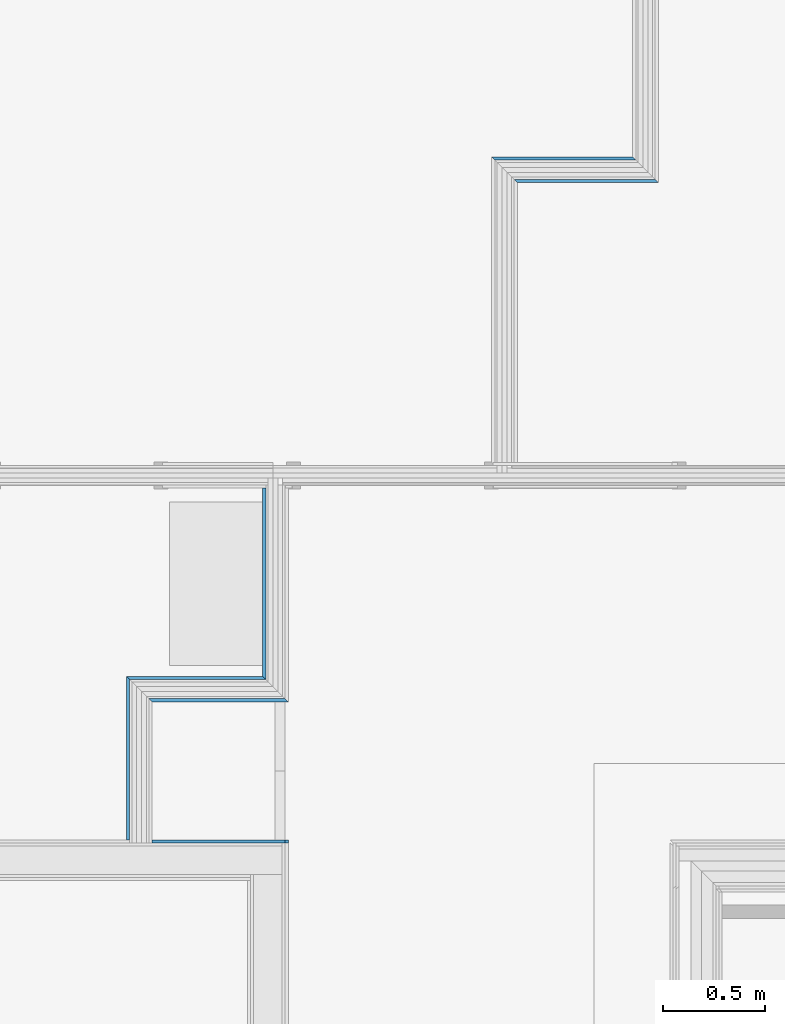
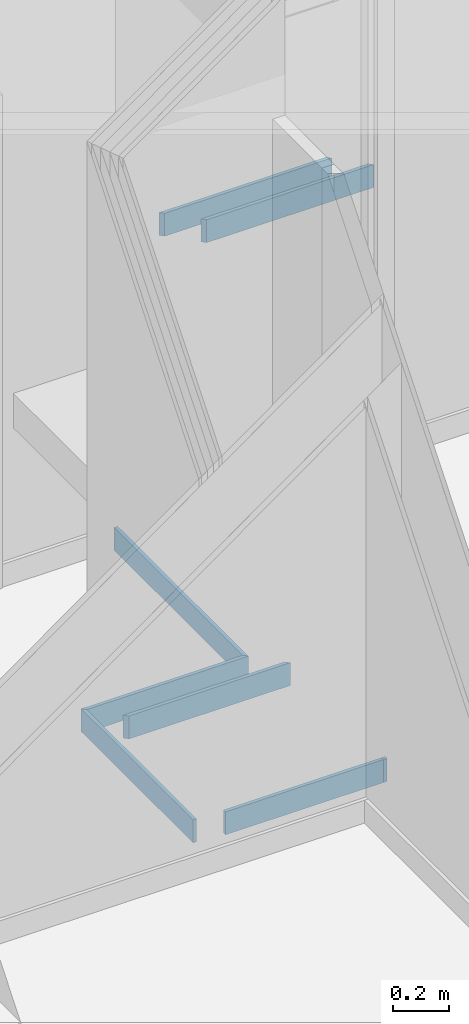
# One storey, part 38 of 64: 8 building element parts, 5 elements without a shape of their own.
"""IFC2X3 building model written with IfcOpenShell, lengths in metres."""

from ifc_helpers import new_model, entity, si_unit, converted_unit, derived_unit, money_unit, direction, frame, frame_2d, origin_with_axes, place, context, subcontext, project, spatial, polyline, rectangle, outline, extrude, material, type_object, element, aggregate, save


model = new_model("IFC2X3")

# Units and contexts
model_context = context("Model", 3, precision=1e-05, world=origin_with_axes(), true_north=direction((0.0, 1.0)))
body_context = subcontext(model_context, "Body", "Model", "MODEL_VIEW", scale=1.0)
ifc_project = project(units=[si_unit("LENGTHUNIT", "METRE"), si_unit("AREAUNIT", "SQUARE_METRE"), si_unit("VOLUMEUNIT", "CUBIC_METRE"), si_unit("ABSORBEDDOSEUNIT", "GRAY"), si_unit("AMOUNTOFSUBSTANCEUNIT", "MOLE"), si_unit("DOSEEQUIVALENTUNIT", "SIEVERT"), si_unit("ELECTRICCAPACITANCEUNIT", "FARAD"), si_unit("ELECTRICCHARGEUNIT", "COULOMB"), si_unit("ELECTRICCONDUCTANCEUNIT", "SIEMENS"), si_unit("ELECTRICCURRENTUNIT", "AMPERE"), si_unit("ELECTRICRESISTANCEUNIT", "OHM"), si_unit("ELECTRICVOLTAGEUNIT", "VOLT"), si_unit("ENERGYUNIT", "JOULE"), si_unit("FORCEUNIT", "NEWTON"), si_unit("FREQUENCYUNIT", "HERTZ"), si_unit("ILLUMINANCEUNIT", "LUX"), si_unit("INDUCTANCEUNIT", "HENRY"), si_unit("LUMINOUSFLUXUNIT", "LUMEN"), si_unit("LUMINOUSINTENSITYUNIT", "CANDELA"), si_unit("MAGNETICFLUXDENSITYUNIT", "TESLA"), si_unit("MAGNETICFLUXUNIT", "WEBER"), si_unit("MASSUNIT", "GRAM"), converted_unit("PLANEANGLEUNIT", "degree", entity("IfcReal", 0.0174532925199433), si_unit("PLANEANGLEUNIT", "RADIAN"), dimensions=[0, 0, 0, 0, 0, 0, 0]), si_unit("POWERUNIT", "WATT"), si_unit("PRESSUREUNIT", "PASCAL"), si_unit("RADIOACTIVITYUNIT", "BECQUEREL"), si_unit("SOLIDANGLEUNIT", "STERADIAN"), si_unit("THERMODYNAMICTEMPERATUREUNIT", "KELVIN"), si_unit("TIMEUNIT", "SECOND"), derived_unit("ACCELERATIONUNIT", [(si_unit("LENGTHUNIT", "METRE"), 1), (si_unit("TIMEUNIT", "SECOND"), -2)]), derived_unit("ANGULARVELOCITYUNIT", [(converted_unit("PLANEANGLEUNIT", "degree", entity("IfcReal", 0.0174532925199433), si_unit("PLANEANGLEUNIT", "RADIAN"), dimensions=[0, 0, 0, 0, 0, 0, 0]), 1), (si_unit("TIMEUNIT", "SECOND"), -1)]), derived_unit("CURVATUREUNIT", [(converted_unit("PLANEANGLEUNIT", "degree", entity("IfcReal", 0.0174532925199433), si_unit("PLANEANGLEUNIT", "RADIAN"), dimensions=[0, 0, 0, 0, 0, 0, 0]), 1), (si_unit("LENGTHUNIT", "METRE"), -1)]), derived_unit("DYNAMICVISCOSITYUNIT", [(si_unit("PRESSUREUNIT", "PASCAL"), 1), (si_unit("TIMEUNIT", "SECOND"), 1)]), derived_unit("HEATFLUXDENSITYUNIT", [(si_unit("POWERUNIT", "WATT"), 1), (si_unit("LENGTHUNIT", "METRE"), -2)]), derived_unit("HEATINGVALUEUNIT", [(si_unit("ENERGYUNIT", "JOULE"), 1), (si_unit("MASSUNIT", "GRAM"), -1)]), derived_unit("INTEGERCOUNTRATEUNIT", [(si_unit("TIMEUNIT", "SECOND"), -1)]), derived_unit("IONCONCENTRATIONUNIT", [(si_unit("MASSUNIT", "GRAM"), 1), (si_unit("VOLUMEUNIT", "CUBIC_METRE"), -1)]), derived_unit("ISOTHERMALMOISTURECAPACITYUNIT", [(si_unit("VOLUMEUNIT", "CUBIC_METRE"), 1), (si_unit("MASSUNIT", "GRAM"), -1)]), derived_unit("KINEMATICVISCOSITYUNIT", [(si_unit("AREAUNIT", "SQUARE_METRE"), 1), (si_unit("TIMEUNIT", "SECOND"), -1)]), derived_unit("LINEARFORCEUNIT", [(si_unit("FORCEUNIT", "NEWTON"), 1), (si_unit("LENGTHUNIT", "METRE"), -1)]), derived_unit("LINEARMOMENTUNIT", [(si_unit("FORCEUNIT", "NEWTON"), 1), (si_unit("LENGTHUNIT", "METRE"), -1)]), derived_unit("LINEARSTIFFNESSUNIT", [(si_unit("FORCEUNIT", "NEWTON"), 1), (si_unit("LENGTHUNIT", "METRE"), -1)]), derived_unit("LINEARVELOCITYUNIT", [(si_unit("LENGTHUNIT", "METRE"), 1), (si_unit("TIMEUNIT", "SECOND"), -1)]), derived_unit("LUMINOUSINTENSITYDISTRIBUTIONUNIT", [(si_unit("LUMINOUSINTENSITYUNIT", "CANDELA"), 1), (si_unit("LUMINOUSFLUXUNIT", "LUMEN"), -1)]), derived_unit("MASSDENSITYUNIT", [(si_unit("MASSUNIT", "GRAM"), 1), (si_unit("VOLUMEUNIT", "CUBIC_METRE"), -1)]), derived_unit("MASSFLOWRATEUNIT", [(si_unit("MASSUNIT", "GRAM"), 1), (si_unit("TIMEUNIT", "SECOND"), -1)]), derived_unit("MASSPERLENGTHUNIT", [(si_unit("MASSUNIT", "GRAM"), 1), (si_unit("LENGTHUNIT", "METRE"), -1)]), derived_unit("MODULUSOFELASTICITYUNIT", [(si_unit("FORCEUNIT", "NEWTON"), 1), (si_unit("AREAUNIT", "SQUARE_METRE"), -1)]), derived_unit("MODULUSOFLINEARSUBGRADEREACTIONUNIT", [(si_unit("FORCEUNIT", "NEWTON"), 1), (si_unit("LENGTHUNIT", "METRE"), -2)]), derived_unit("MODULUSOFROTATIONALSUBGRADEREACTIONUNIT", [(si_unit("FORCEUNIT", "NEWTON"), 1), (si_unit("LENGTHUNIT", "METRE"), 1)]), derived_unit("MODULUSOFSUBGRADEREACTIONUNIT", [(si_unit("FORCEUNIT", "NEWTON"), 1), (si_unit("VOLUMEUNIT", "CUBIC_METRE"), -1)]), derived_unit("MOISTUREDIFFUSIVITYUNIT", [(si_unit("VOLUMEUNIT", "CUBIC_METRE"), 1), (si_unit("TIMEUNIT", "SECOND"), -1)]), derived_unit("MOLECULARWEIGHTUNIT", [(si_unit("MASSUNIT", "GRAM"), 1), (si_unit("AMOUNTOFSUBSTANCEUNIT", "MOLE"), -1)]), derived_unit("PLANARFORCEUNIT", [(si_unit("FORCEUNIT", "NEWTON"), 1), (si_unit("LENGTHUNIT", "METRE"), -2)]), derived_unit("ROTATIONALFREQUENCYUNIT", [(si_unit("TIMEUNIT", "SECOND"), -1)]), derived_unit("ROTATIONALMASSUNIT", [(si_unit("MASSUNIT", "GRAM"), 1), (si_unit("LENGTHUNIT", "METRE"), 2)]), derived_unit("ROTATIONALSTIFFNESSUNIT", [(si_unit("FORCEUNIT", "NEWTON"), 1), (si_unit("LENGTHUNIT", "METRE"), 1), (converted_unit("PLANEANGLEUNIT", "degree", entity("IfcReal", 0.0174532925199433), si_unit("PLANEANGLEUNIT", "RADIAN"), dimensions=[0, 0, 0, 0, 0, 0, 0]), -1)]), derived_unit("SECTIONAREAINTEGRALUNIT", [(si_unit("LENGTHUNIT", "METRE"), 5)]), derived_unit("SECTIONMODULUSUNIT", [(si_unit("LENGTHUNIT", "METRE"), 3)]), derived_unit("SHEARMODULUSUNIT", [(si_unit("FORCEUNIT", "NEWTON"), 1), (si_unit("AREAUNIT", "SQUARE_METRE"), -1)]), derived_unit("SOUNDPOWERUNIT", [(si_unit("ENERGYUNIT", "JOULE"), 1), (si_unit("TIMEUNIT", "SECOND"), -1)]), derived_unit("SPECIFICHEATCAPACITYUNIT", [(si_unit("FORCEUNIT", "NEWTON"), 1), (si_unit("MASSUNIT", "GRAM"), -1), (si_unit("THERMODYNAMICTEMPERATUREUNIT", "KELVIN"), -1)]), derived_unit("TEMPERATUREGRADIENTUNIT", [(si_unit("THERMODYNAMICTEMPERATUREUNIT", "KELVIN"), 1), (si_unit("LENGTHUNIT", "METRE"), -1)]), derived_unit("THERMALADMITTANCEUNIT", [(si_unit("POWERUNIT", "WATT"), 1), (si_unit("AREAUNIT", "SQUARE_METRE"), -1), (si_unit("THERMODYNAMICTEMPERATUREUNIT", "KELVIN"), -1)]), derived_unit("THERMALCONDUCTANCEUNIT", [(si_unit("POWERUNIT", "WATT"), 1), (si_unit("LENGTHUNIT", "METRE"), -1), (si_unit("THERMODYNAMICTEMPERATUREUNIT", "KELVIN"), -1)]), derived_unit("THERMALEXPANSIONCOEFFICIENTUNIT", [(si_unit("THERMODYNAMICTEMPERATUREUNIT", "KELVIN"), -1)]), derived_unit("THERMALRESISTANCEUNIT", [(si_unit("AREAUNIT", "SQUARE_METRE"), 1), (si_unit("POWERUNIT", "WATT"), -1)]), derived_unit("THERMALTRANSMITTANCEUNIT", [(si_unit("POWERUNIT", "WATT"), 1), (si_unit("AREAUNIT", "SQUARE_METRE"), -1), (si_unit("THERMODYNAMICTEMPERATUREUNIT", "KELVIN"), -1)]), derived_unit("TORQUEUNIT", [(si_unit("FORCEUNIT", "NEWTON"), 1), (si_unit("LENGTHUNIT", "METRE"), 1)]), derived_unit("VAPORPERMEABILITYUNIT", [(si_unit("MASSUNIT", "GRAM"), 1), (si_unit("TIMEUNIT", "SECOND"), -1)]), derived_unit("VOLUMETRICFLOWRATEUNIT", [(si_unit("VOLUMEUNIT", "CUBIC_METRE"), 1), (si_unit("TIMEUNIT", "SECOND"), -1)]), derived_unit("WARPINGCONSTANTUNIT", [(si_unit("LENGTHUNIT", "METRE"), 6)]), derived_unit("WARPINGMOMENTUNIT", [(si_unit("FORCEUNIT", "NEWTON"), 1), (si_unit("LENGTHUNIT", "METRE"), 2)]), money_unit("GBP")], contexts=[model_context])

# Site, building, storey
site_placement = place(None, origin_with_axes())
site = spatial("IfcSite", under=ifc_project, at=site_placement, Name="Site", CompositionType="ELEMENT")
building_placement = place(site_placement, origin_with_axes())
building = spatial("IfcBuilding", under=site, at=building_placement, Name="Building01", CompositionType="ELEMENT")
storey_placement = place(building_placement, frame((0.0, 0.0, 8.64), z_axis=(0.0, 0.0, 1.0), x_axis=(1.0, 0.0, 0.0)))
storey = spatial("IfcBuildingStorey", under=building, at=storey_placement, Name="2F", CompositionType="ELEMENT", Elevation=8.64)

# Wall, building element parts
wall_type_1 = type_object("IfcWallType", Name="SHE_A-Walls_Type05a_Partition_95mm_tall", PredefinedType="NOTDEFINED")
wall_1_placement = place(storey_placement, frame((19.085284, 12.099378, 0.0), z_axis=(0.0, 0.0, 1.0), x_axis=(1.0, 0.0, 0.0)))
wall_1 = element("IfcWall", 1, at=wall_1_placement, inside=storey, type_object=wall_type_1, Name="5A", ObjectType="SHE_A-Walls_Type05a_Partition_95mm_tall")
ifc_material = material(Name="A_BSUK_Walls_Timber")
placement_1 = place(wall_1_placement, origin_with_axes())
building_element_part_1 = element("IfcBuildingElementPart", 2, at=placement_1, material=ifc_material, Name="1", context=body_context, shape_type="SweptSolid", body=[
    extrude(outline(polyline([(0.724716, -0.035), (0.035, -0.035), (0.05, -0.05), (0.739716, -0.05), (0.724716, -0.035)])), frame((0.0, 0.0, 0.015), z_axis=(0.0, 0.0, 1.0), x_axis=(1.0, 0.0, 0.0)), (0.0, 0.0, 1.0), 0.1),
])
building_element_part_2 = element("IfcBuildingElementPart", 3, at=placement_1, material=ifc_material, Name="7", context=body_context, shape_type="SweptSolid", body=[
    extrude(outline(polyline([(0.614716, 0.075), (-0.075, 0.075), (-0.06, 0.06), (0.629716, 0.06), (0.614716, 0.075)])), frame((0.0, 0.0, 0.015), z_axis=(0.0, 0.0, 1.0), x_axis=(1.0, 0.0, 0.0)), (0.0, 0.0, 1.0), 0.1),
])
aggregate(wall_1, [building_element_part_1, building_element_part_2])

# Wall, building element part
wall_2_placement = place(storey_placement, frame((17.273132, 8.82, 0.0), z_axis=(0.0, 0.0, 1.0), x_axis=(0.0, 1.0, 0.0)))
wall_2 = element("IfcWall", 4, at=wall_2_placement, inside=storey, type_object=wall_type_1, Name="5A", ObjectType="SHE_A-Walls_Type05a_Partition_95mm_tall")
building_element_part_3_placement = place(wall_2_placement, origin_with_axes())
building_element_part_3 = element("IfcBuildingElementPart", 5, at=building_element_part_3_placement, material=ifc_material, Name="7", context=body_context, shape_type="SweptSolid", body=[
    extrude(outline(polyline([(0.815, 0.05), (0.015, 0.05), (0.015, 0.035), (0.8, 0.035), (0.815, 0.05)])), frame((0.0, 0.0, 0.015), z_axis=(0.0, 0.0, 1.0), x_axis=(1.0, 0.0, 0.0)), (0.0, 0.0, 1.0), 0.1),
])
aggregate(wall_2, [building_element_part_3])

# Wall, building element parts
wall_3_placement = place(storey_placement, frame((17.273132, 9.585, 0.0), z_axis=(0.0, 0.0, 1.0), x_axis=(1.0, 0.0, 0.0)))
wall_3 = element("IfcWall", 6, at=wall_3_placement, inside=storey, type_object=wall_type_1, Name="5A", ObjectType="SHE_A-Walls_Type05a_Partition_95mm_tall")
placement_2 = place(wall_3_placement, origin_with_axes())
building_element_part_4 = element("IfcBuildingElementPart", 7, at=placement_2, material=ifc_material, Name="1", context=body_context, shape_type="SweptSolid", body=[
    extrude(outline(polyline([(0.726868, -0.06), (0.06, -0.06), (0.075, -0.075), (0.741868, -0.075), (0.726868, -0.06)])), frame((0.0, 0.0, 0.015), z_axis=(0.0, 0.0, 1.0), x_axis=(1.0, 0.0, 0.0)), (0.0, 0.0, 1.0), 0.1),
])
building_element_part_5 = element("IfcBuildingElementPart", 8, at=placement_2, material=ifc_material, Name="7", context=body_context, shape_type="SweptSolid", body=[
    extrude(outline(polyline([(0.616868, 0.05), (-0.05, 0.05), (-0.035, 0.035), (0.631868, 0.035), (0.616868, 0.05)])), frame((0.0, 0.0, 0.015), z_axis=(0.0, 0.0, 1.0), x_axis=(1.0, 0.0, 0.0)), (0.0, 0.0, 1.0), 0.1),
])
aggregate(wall_3, [building_element_part_4, building_element_part_5])

# Wall, building element part
wall_4_placement = place(storey_placement, frame((17.94, 9.585, 0.0), z_axis=(0.0, 0.0, 1.0), x_axis=(0.0, 1.0, 0.0)))
wall_4 = element("IfcWall", 9, at=wall_4_placement, inside=storey, type_object=wall_type_1, Name="5A", ObjectType="SHE_A-Walls_Type05a_Partition_95mm_tall")
building_element_part_6_placement = place(wall_4_placement, origin_with_axes())
building_element_part_6 = element("IfcBuildingElementPart", 10, at=building_element_part_6_placement, material=ifc_material, Name="7", context=body_context, shape_type="SweptSolid", body=[
    extrude(outline(polyline([(0.97, 0.05), (0.05, 0.05), (0.035, 0.035), (0.97, 0.035), (0.97, 0.05)])), frame((0.0, 0.0, 0.015), z_axis=(0.0, 0.0, 1.0), x_axis=(1.0, 0.0, 0.0)), (0.0, 0.0, 1.0), 0.1),
])
aggregate(wall_4, [building_element_part_6])

# Wall, building element parts
wall_type_2 = type_object("IfcWallType", Name="SHE_A-Walls_Type03a_BlockworkWall_170mm", PredefinedType="NOTDEFINED")
wall_5_placement = place(storey_placement, frame((17.985, 8.805, 0.0), z_axis=(0.0, 0.0, 1.0), x_axis=(-1.0, 0.0, 0.0)))
wall_5 = element("IfcWall", 11, at=wall_5_placement, inside=storey, type_object=wall_type_2, Name="4B", ObjectType="SHE_A-Walls_Type03a_BlockworkWall_170mm")
placement_3 = place(wall_5_placement, origin_with_axes())
building_element_part_7 = element("IfcBuildingElementPart", 12, at=placement_3, material=ifc_material, Name="1", context=body_context, shape_type="SweptSolid", body=[
    extrude(rectangle(XDim=0.015, YDim=0.015, at=frame_2d((-0.0225, -0.0225), x_axis=(-1.0, 0.0))), frame((0.0, 0.0, 0.015), z_axis=(0.0, 0.0, 1.0), x_axis=(1.0, 0.0, 0.0)), (0.0, 0.0, 1.0), 0.1),
])
building_element_part_8 = element("IfcBuildingElementPart", 13, at=placement_3, material=ifc_material, Name="3", context=body_context, shape_type="SweptSolid", body=[
    extrude(rectangle(XDim=0.651868, YDim=0.015, at=frame_2d((0.310934, -0.0225), x_axis=(-1.0, 0.0))), frame((0.0, 0.0, 0.015), z_axis=(0.0, 0.0, 1.0), x_axis=(1.0, 0.0, 0.0)), (0.0, 0.0, 1.0), 0.1),
])
aggregate(wall_5, [building_element_part_7, building_element_part_8])

save(model, "model.ifc")
